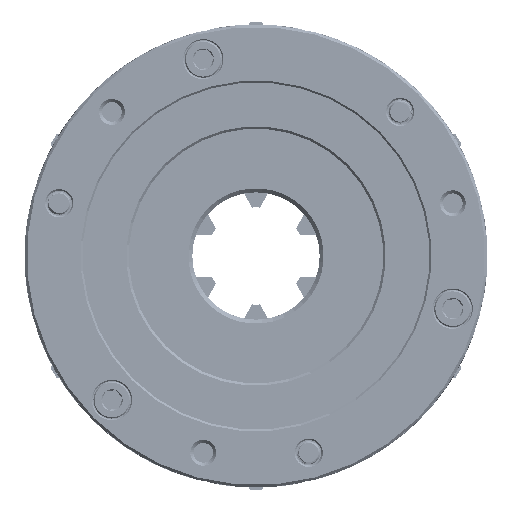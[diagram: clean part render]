
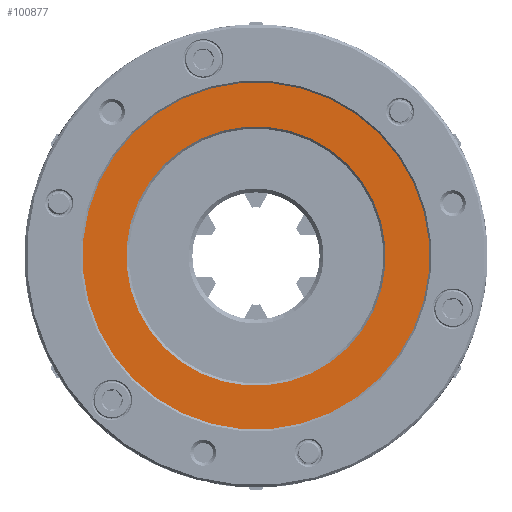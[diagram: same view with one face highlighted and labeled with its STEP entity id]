
A CAD part, front view. The second image highlights one B-rep face of the part: STEP entity #100877.
In plain terms, the highlighted planar face has unit normal (0, -1, 0) as drawn and (1, 0, 0) by its records, which use the part's own axes.
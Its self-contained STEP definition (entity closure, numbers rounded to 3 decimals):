
#1070 = AXIS2_PLACEMENT_3D ( 'NONE', #22901, #7515, #35597 ) ;
#3458 = DIRECTION ( 'NONE',  ( -1., 0., 0. ) ) ;
#7515 = DIRECTION ( 'NONE',  ( 1., 0., 0. ) ) ;
#8845 = VERTEX_POINT ( 'NONE', #58378 ) ;
#11830 = DIRECTION ( 'NONE',  ( -1., 0., 0. ) ) ;
#13331 = CIRCLE ( 'NONE', #175642, 56.025 ) ;
#15654 = CIRCLE ( 'NONE', #102582, 75. ) ;
#22901 = CARTESIAN_POINT ( 'NONE',  ( 26.7, 0., 0. ) ) ;
#34445 = DIRECTION ( 'NONE',  ( 0., 0., -1. ) ) ;
#35597 = DIRECTION ( 'NONE',  ( 0., 0., -1. ) ) ;
#44284 = DIRECTION ( 'NONE',  ( 0., 0., 1. ) ) ;
#46560 = VERTEX_POINT ( 'NONE', #104151 ) ;
#47155 = DIRECTION ( 'NONE',  ( 1., 0., 0. ) ) ;
#50296 = CIRCLE ( 'NONE', #1070, 75. ) ;
#54238 = VERTEX_POINT ( 'NONE', #151607 ) ;
#54457 = FACE_BOUND ( 'NONE', #128015, .T. ) ;
#58378 = CARTESIAN_POINT ( 'NONE',  ( 26.7, 0., -75. ) ) ;
#71281 = ORIENTED_EDGE ( 'NONE', *, *, #151128, .T. ) ;
#78116 = FACE_OUTER_BOUND ( 'NONE', #179111, .T. ) ;
#79047 = CARTESIAN_POINT ( 'NONE',  ( 26.7, 0., 0. ) ) ;
#85960 = AXIS2_PLACEMENT_3D ( 'NONE', #79047, #89994, #121685 ) ;
#89994 = DIRECTION ( 'NONE',  ( -1., 0., 0. ) ) ;
#94413 = DIRECTION ( 'NONE',  ( 0., 0., 1. ) ) ;
#100877 = ADVANCED_FACE ( 'NONE', ( #54457, #78116 ), #165162, .F. ) ;
#101421 = AXIS2_PLACEMENT_3D ( 'NONE', #107160, #11830, #94413 ) ;
#102582 = AXIS2_PLACEMENT_3D ( 'NONE', #103425, #47155, #34445 ) ;
#103425 = CARTESIAN_POINT ( 'NONE',  ( 26.7, 0., 0. ) ) ;
#104151 = CARTESIAN_POINT ( 'NONE',  ( 26.7, 0., -56.025 ) ) ;
#107160 = CARTESIAN_POINT ( 'NONE',  ( 26.7, 75., 0. ) ) ;
#119981 = ORIENTED_EDGE ( 'NONE', *, *, #163780, .T. ) ;
#121463 = CARTESIAN_POINT ( 'NONE',  ( 26.7, 0., 56.025 ) ) ;
#121685 = DIRECTION ( 'NONE',  ( 0., 0., 1. ) ) ;
#124470 = VERTEX_POINT ( 'NONE', #121463 ) ;
#125989 = CARTESIAN_POINT ( 'NONE',  ( 26.7, 0., 0. ) ) ;
#128015 = EDGE_LOOP ( 'NONE', ( #166384, #71281 ) ) ;
#144005 = CIRCLE ( 'NONE', #85960, 56.025 ) ;
#145003 = EDGE_CURVE ( 'NONE', #54238, #8845, #15654, .T. ) ;
#151128 = EDGE_CURVE ( 'NONE', #124470, #46560, #144005, .T. ) ;
#151607 = CARTESIAN_POINT ( 'NONE',  ( 26.7, 0., 75. ) ) ;
#163780 = EDGE_CURVE ( 'NONE', #8845, #54238, #50296, .T. ) ;
#165162 = PLANE ( 'NONE',  #101421 ) ;
#166384 = ORIENTED_EDGE ( 'NONE', *, *, #169646, .T. ) ;
#168278 = ORIENTED_EDGE ( 'NONE', *, *, #145003, .T. ) ;
#169646 = EDGE_CURVE ( 'NONE', #46560, #124470, #13331, .T. ) ;
#175642 = AXIS2_PLACEMENT_3D ( 'NONE', #125989, #3458, #44284 ) ;
#179111 = EDGE_LOOP ( 'NONE', ( #119981, #168278 ) ) ;
